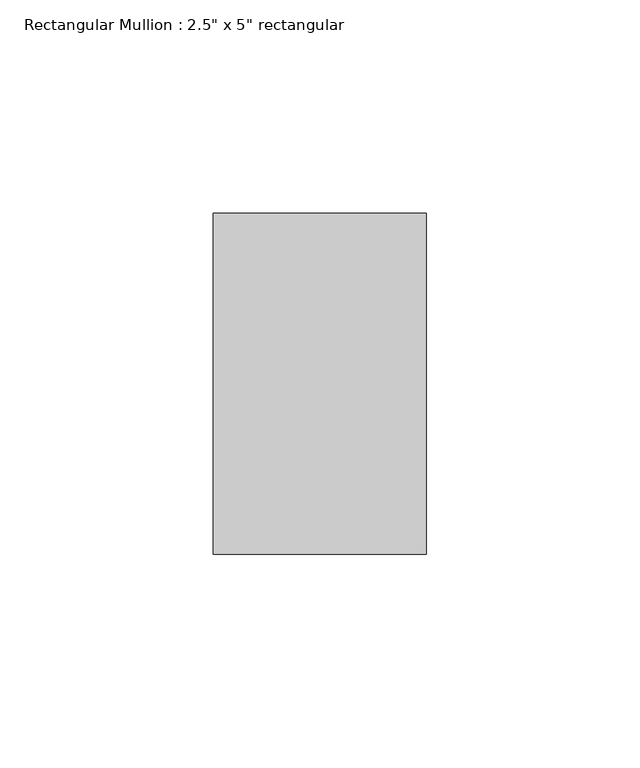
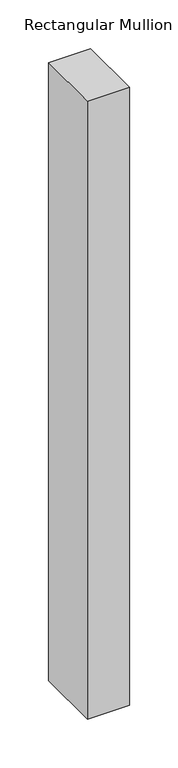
"""IFC4 building model written with IfcOpenShell, lengths in millimetres: member geometry."""

from ifc_helpers import new_model, si_unit, frame, origin, place, context, project, spatial, polyline, outline, extrude, source, transform, mapped, element, save


def member_1a6eca39(model_context):
    return source(origin(), model_context, "Body", "SweptSolid", [
        extrude(outline(polyline([(25.0, 40.0), (25.0, -40.0), (-25.0, -40.0), (-25.0, 40.0), (25.0, 40.0)])), frame((0.0, 0.0, -775.0), z_axis=(0.0, 0.0, 1.0), x_axis=(1.0, 0.0, 0.0)), (0.0, 0.0, 1.0), 775.0),
    ])


if __name__ == "__main__":
    model = new_model("IFC4")
    model_context = context("Model", 3, world=origin())
    ifc_project = project(units=[si_unit("LENGTHUNIT", "METRE", prefix="MILLI")], contexts=[model_context])
    site = spatial("IfcSite", under=ifc_project)
    building = spatial("IfcBuilding", under=site)
    placement = place(None, origin())
    member_shape = member_1a6eca39(model_context)
    element("IfcMember", 1, ObjectType="Rectangular Mullion : 2.5\" x 5\" rectangular", at=placement, inside=building, context=model_context, shape_type="MappedRepresentation", body=[
        mapped(member_shape, transform((0.0, 0.0, 0.0), x_axis=(1.0, 0.0, 0.0), y_axis=(0.0, 1.0, 0.0), z_axis=(0.0, 0.0, 1.0))),
    ])
    save(model, "model.ifc")
